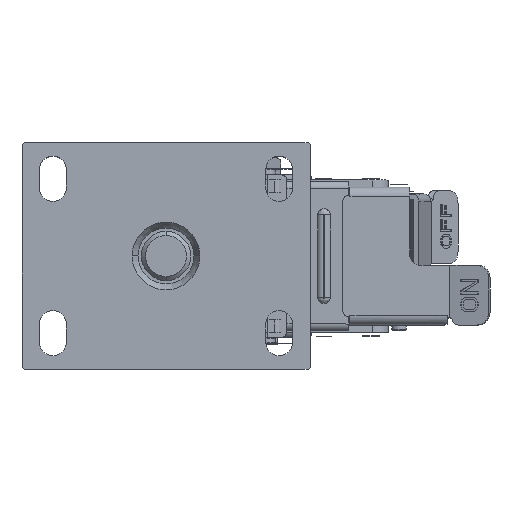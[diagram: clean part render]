
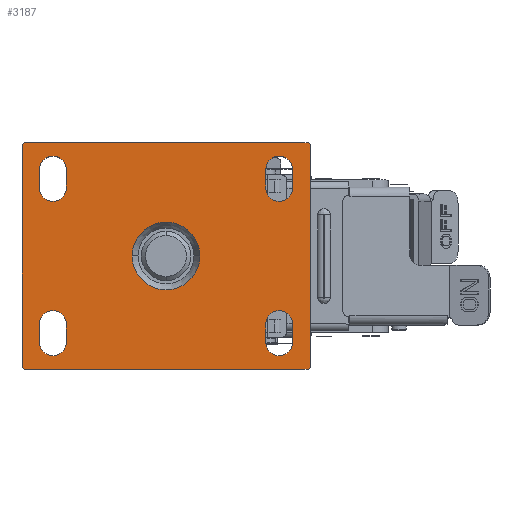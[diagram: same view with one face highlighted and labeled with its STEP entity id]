
A CAD part, top view. The second image highlights one B-rep face of the part: STEP entity #3187.
In plain terms, the highlighted planar face has unit normal (0, 0, 1).
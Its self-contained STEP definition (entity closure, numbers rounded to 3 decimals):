
#2607=DIRECTION('',(0.707,-0.707,0.));
#2608=VECTOR('',#2607,1.414);
#2609=CARTESIAN_POINT('',(-112.,-54.,122.));
#2610=LINE('',#2609,#2608);
#2611=DIRECTION('',(0.,-1.,0.));
#2612=VECTOR('',#2611,108.);
#2613=CARTESIAN_POINT('',(-112.,54.,122.));
#2614=LINE('',#2613,#2612);
#2615=DIRECTION('',(-0.707,-0.707,0.));
#2616=VECTOR('',#2615,1.414);
#2617=CARTESIAN_POINT('',(-111.,55.,122.));
#2618=LINE('',#2617,#2616);
#2619=DIRECTION('',(-1.,0.,0.));
#2620=VECTOR('',#2619,138.);
#2621=CARTESIAN_POINT('',(27.,55.,122.));
#2622=LINE('',#2621,#2620);
#2623=DIRECTION('',(0.707,-0.707,0.));
#2624=VECTOR('',#2623,1.414);
#2625=CARTESIAN_POINT('',(27.,55.,122.));
#2626=LINE('',#2625,#2624);
#2627=DIRECTION('',(0.,1.,0.));
#2628=VECTOR('',#2627,108.);
#2629=CARTESIAN_POINT('',(28.,-54.,122.));
#2630=LINE('',#2629,#2628);
#2631=DIRECTION('',(-0.707,-0.707,0.));
#2632=VECTOR('',#2631,1.414);
#2633=CARTESIAN_POINT('',(28.,-54.,122.));
#2634=LINE('',#2633,#2632);
#2635=DIRECTION('',(1.,0.,0.));
#2636=VECTOR('',#2635,138.);
#2637=CARTESIAN_POINT('',(-111.,-55.,122.));
#2638=LINE('',#2637,#2636);
#2639=CARTESIAN_POINT('',(-42.,0.,122.));
#2640=DIRECTION('',(0.,0.,-1.));
#2641=DIRECTION('',(-1.,0.,0.));
#2642=AXIS2_PLACEMENT_3D('',#2639,#2640,#2641);
#2644=CARTESIAN_POINT('',(-42.,0.,122.));
#2645=DIRECTION('',(0.,0.,-1.));
#2646=DIRECTION('',(1.,0.,0.));
#2647=AXIS2_PLACEMENT_3D('',#2644,#2645,#2646);
#2649=CARTESIAN_POINT('',(13.,33.,122.));
#2650=DIRECTION('',(0.,0.,1.));
#2651=DIRECTION('',(-1.,0.,0.));
#2652=AXIS2_PLACEMENT_3D('',#2649,#2650,#2651);
#2654=DIRECTION('',(0.,1.,0.));
#2655=VECTOR('',#2654,9.);
#2656=CARTESIAN_POINT('',(19.5,33.,122.));
#2657=LINE('',#2656,#2655);
#2658=CARTESIAN_POINT('',(13.,42.,122.));
#2659=DIRECTION('',(0.,0.,1.));
#2660=DIRECTION('',(1.,0.,0.));
#2661=AXIS2_PLACEMENT_3D('',#2658,#2659,#2660);
#2663=DIRECTION('',(0.,-1.,0.));
#2664=VECTOR('',#2663,9.);
#2665=CARTESIAN_POINT('',(6.5,42.,122.));
#2666=LINE('',#2665,#2664);
#2667=CARTESIAN_POINT('',(-97.,33.,122.));
#2668=DIRECTION('',(0.,0.,-1.));
#2669=DIRECTION('',(1.,0.,0.));
#2670=AXIS2_PLACEMENT_3D('',#2667,#2668,#2669);
#2672=DIRECTION('',(0.,-1.,0.));
#2673=VECTOR('',#2672,9.);
#2674=CARTESIAN_POINT('',(-90.5,42.,122.));
#2675=LINE('',#2674,#2673);
#2676=CARTESIAN_POINT('',(-97.,42.,122.));
#2677=DIRECTION('',(0.,0.,-1.));
#2678=DIRECTION('',(-1.,0.,0.));
#2679=AXIS2_PLACEMENT_3D('',#2676,#2677,#2678);
#2681=DIRECTION('',(0.,1.,0.));
#2682=VECTOR('',#2681,9.);
#2683=CARTESIAN_POINT('',(-103.5,33.,122.));
#2684=LINE('',#2683,#2682);
#2685=CARTESIAN_POINT('',(13.,-33.,122.));
#2686=DIRECTION('',(0.,0.,-1.));
#2687=DIRECTION('',(-1.,0.,0.));
#2688=AXIS2_PLACEMENT_3D('',#2685,#2686,#2687);
#2690=DIRECTION('',(0.,1.,0.));
#2691=VECTOR('',#2690,9.);
#2692=CARTESIAN_POINT('',(6.5,-42.,122.));
#2693=LINE('',#2692,#2691);
#2694=CARTESIAN_POINT('',(13.,-42.,122.));
#2695=DIRECTION('',(0.,0.,-1.));
#2696=DIRECTION('',(1.,0.,0.));
#2697=AXIS2_PLACEMENT_3D('',#2694,#2695,#2696);
#2699=DIRECTION('',(0.,-1.,0.));
#2700=VECTOR('',#2699,9.);
#2701=CARTESIAN_POINT('',(19.5,-33.,122.));
#2702=LINE('',#2701,#2700);
#2703=CARTESIAN_POINT('',(-97.,-33.,122.));
#2704=DIRECTION('',(0.,0.,1.));
#2705=DIRECTION('',(1.,0.,0.));
#2706=AXIS2_PLACEMENT_3D('',#2703,#2704,#2705);
#2708=DIRECTION('',(0.,-1.,0.));
#2709=VECTOR('',#2708,9.);
#2710=CARTESIAN_POINT('',(-103.5,-33.,122.));
#2711=LINE('',#2710,#2709);
#2712=CARTESIAN_POINT('',(-97.,-42.,122.));
#2713=DIRECTION('',(0.,0.,1.));
#2714=DIRECTION('',(-1.,0.,0.));
#2715=AXIS2_PLACEMENT_3D('',#2712,#2713,#2714);
#2717=DIRECTION('',(0.,1.,0.));
#2718=VECTOR('',#2717,9.);
#2719=CARTESIAN_POINT('',(-90.5,-42.,122.));
#2720=LINE('',#2719,#2718);
#2835=CARTESIAN_POINT('',(-112.,-54.,122.));
#2836=VERTEX_POINT('',#2835);
#2837=CARTESIAN_POINT('',(-111.,-55.,122.));
#2838=VERTEX_POINT('',#2837);
#2843=CARTESIAN_POINT('',(-111.,55.,122.));
#2844=VERTEX_POINT('',#2843);
#2845=CARTESIAN_POINT('',(-112.,54.,122.));
#2846=VERTEX_POINT('',#2845);
#2851=CARTESIAN_POINT('',(27.,-55.,122.));
#2852=VERTEX_POINT('',#2851);
#2853=CARTESIAN_POINT('',(28.,-54.,122.));
#2854=VERTEX_POINT('',#2853);
#2859=CARTESIAN_POINT('',(28.,54.,122.));
#2860=VERTEX_POINT('',#2859);
#2861=CARTESIAN_POINT('',(27.,55.,122.));
#2862=VERTEX_POINT('',#2861);
#2863=CARTESIAN_POINT('',(-58.5,0.,122.));
#2864=CARTESIAN_POINT('',(-25.5,0.,122.));
#2865=VERTEX_POINT('',#2863);
#2866=VERTEX_POINT('',#2864);
#2879=CARTESIAN_POINT('',(6.5,33.,122.));
#2880=CARTESIAN_POINT('',(19.5,33.,122.));
#2881=VERTEX_POINT('',#2879);
#2882=VERTEX_POINT('',#2880);
#2883=CARTESIAN_POINT('',(19.5,42.,122.));
#2884=VERTEX_POINT('',#2883);
#2885=CARTESIAN_POINT('',(6.5,42.,122.));
#2886=VERTEX_POINT('',#2885);
#2888=CARTESIAN_POINT('',(-90.5,33.,122.));
#2890=VERTEX_POINT('',#2888);
#2892=CARTESIAN_POINT('',(-103.5,33.,122.));
#2894=VERTEX_POINT('',#2892);
#2896=CARTESIAN_POINT('',(-103.5,42.,122.));
#2898=VERTEX_POINT('',#2896);
#2900=CARTESIAN_POINT('',(-90.5,42.,122.));
#2902=VERTEX_POINT('',#2900);
#2904=CARTESIAN_POINT('',(6.5,-33.,122.));
#2906=VERTEX_POINT('',#2904);
#2908=CARTESIAN_POINT('',(19.5,-33.,122.));
#2910=VERTEX_POINT('',#2908);
#2912=CARTESIAN_POINT('',(19.5,-42.,122.));
#2914=VERTEX_POINT('',#2912);
#2916=CARTESIAN_POINT('',(6.5,-42.,122.));
#2918=VERTEX_POINT('',#2916);
#2920=CARTESIAN_POINT('',(-90.5,-33.,122.));
#2922=VERTEX_POINT('',#2920);
#2924=CARTESIAN_POINT('',(-103.5,-33.,122.));
#2926=VERTEX_POINT('',#2924);
#2928=CARTESIAN_POINT('',(-103.5,-42.,122.));
#2930=VERTEX_POINT('',#2928);
#2932=CARTESIAN_POINT('',(-90.5,-42.,122.));
#2934=VERTEX_POINT('',#2932);
#3122=CARTESIAN_POINT('',(-42.,0.,122.));
#3123=DIRECTION('',(0.,0.,1.));
#3124=DIRECTION('',(-1.,0.,0.));
#3125=AXIS2_PLACEMENT_3D('',#3122,#3123,#3124);
#3126=PLANE('',#3125);
#3127=ORIENTED_EDGE('',*,*,#3045,.F.);
#3128=ORIENTED_EDGE('',*,*,#3068,.F.);
#3129=ORIENTED_EDGE('',*,*,#3088,.F.);
#3130=ORIENTED_EDGE('',*,*,#3110,.F.);
#3132=ORIENTED_EDGE('',*,*,#3131,.T.);
#3134=ORIENTED_EDGE('',*,*,#3133,.F.);
#3136=ORIENTED_EDGE('',*,*,#3135,.T.);
#3138=ORIENTED_EDGE('',*,*,#3137,.F.);
#3139=EDGE_LOOP('',(#3127,#3128,#3129,#3130,#3132,#3134,#3136,#3138));
#3140=FACE_OUTER_BOUND('',#3139,.F.);
#3142=ORIENTED_EDGE('',*,*,#3141,.F.);
#3144=ORIENTED_EDGE('',*,*,#3143,.F.);
#3145=EDGE_LOOP('',(#3142,#3144));
#3146=FACE_BOUND('',#3145,.F.);
#3148=ORIENTED_EDGE('',*,*,#3147,.T.);
#3150=ORIENTED_EDGE('',*,*,#3149,.T.);
#3152=ORIENTED_EDGE('',*,*,#3151,.T.);
#3154=ORIENTED_EDGE('',*,*,#3153,.T.);
#3155=EDGE_LOOP('',(#3148,#3150,#3152,#3154));
#3156=FACE_BOUND('',#3155,.F.);
#3158=ORIENTED_EDGE('',*,*,#3157,.F.);
#3160=ORIENTED_EDGE('',*,*,#3159,.F.);
#3162=ORIENTED_EDGE('',*,*,#3161,.F.);
#3164=ORIENTED_EDGE('',*,*,#3163,.F.);
#3165=EDGE_LOOP('',(#3158,#3160,#3162,#3164));
#3166=FACE_BOUND('',#3165,.F.);
#3168=ORIENTED_EDGE('',*,*,#3167,.F.);
#3170=ORIENTED_EDGE('',*,*,#3169,.F.);
#3172=ORIENTED_EDGE('',*,*,#3171,.F.);
#3174=ORIENTED_EDGE('',*,*,#3173,.F.);
#3175=EDGE_LOOP('',(#3168,#3170,#3172,#3174));
#3176=FACE_BOUND('',#3175,.F.);
#3178=ORIENTED_EDGE('',*,*,#3177,.T.);
#3180=ORIENTED_EDGE('',*,*,#3179,.T.);
#3182=ORIENTED_EDGE('',*,*,#3181,.T.);
#3184=ORIENTED_EDGE('',*,*,#3183,.T.);
#3185=EDGE_LOOP('',(#3178,#3180,#3182,#3184));
#3186=FACE_BOUND('',#3185,.F.);
#3187=ADVANCED_FACE('',(#3140,#3146,#3156,#3166,#3176,#3186),#3126,.T.);
#2643=CIRCLE('',#2642,16.5);
#2648=CIRCLE('',#2647,16.5);
#2653=CIRCLE('',#2652,6.5);
#2662=CIRCLE('',#2661,6.5);
#2671=CIRCLE('',#2670,6.5);
#2680=CIRCLE('',#2679,6.5);
#2689=CIRCLE('',#2688,6.5);
#2698=CIRCLE('',#2697,6.5);
#2707=CIRCLE('',#2706,6.5);
#2716=CIRCLE('',#2715,6.5);
#3045=EDGE_CURVE('',#2836,#2838,#2610,.T.);
#3068=EDGE_CURVE('',#2846,#2836,#2614,.T.);
#3088=EDGE_CURVE('',#2844,#2846,#2618,.T.);
#3110=EDGE_CURVE('',#2862,#2844,#2622,.T.);
#3131=EDGE_CURVE('',#2862,#2860,#2626,.T.);
#3133=EDGE_CURVE('',#2854,#2860,#2630,.T.);
#3135=EDGE_CURVE('',#2854,#2852,#2634,.T.);
#3137=EDGE_CURVE('',#2838,#2852,#2638,.T.);
#3141=EDGE_CURVE('',#2865,#2866,#2643,.T.);
#3143=EDGE_CURVE('',#2866,#2865,#2648,.T.);
#3147=EDGE_CURVE('',#2881,#2882,#2653,.T.);
#3149=EDGE_CURVE('',#2882,#2884,#2657,.T.);
#3151=EDGE_CURVE('',#2884,#2886,#2662,.T.);
#3153=EDGE_CURVE('',#2886,#2881,#2666,.T.);
#3157=EDGE_CURVE('',#2890,#2894,#2671,.T.);
#3159=EDGE_CURVE('',#2902,#2890,#2675,.T.);
#3161=EDGE_CURVE('',#2898,#2902,#2680,.T.);
#3163=EDGE_CURVE('',#2894,#2898,#2684,.T.);
#3167=EDGE_CURVE('',#2906,#2910,#2689,.T.);
#3169=EDGE_CURVE('',#2918,#2906,#2693,.T.);
#3171=EDGE_CURVE('',#2914,#2918,#2698,.T.);
#3173=EDGE_CURVE('',#2910,#2914,#2702,.T.);
#3177=EDGE_CURVE('',#2922,#2926,#2707,.T.);
#3179=EDGE_CURVE('',#2926,#2930,#2711,.T.);
#3181=EDGE_CURVE('',#2930,#2934,#2716,.T.);
#3183=EDGE_CURVE('',#2934,#2922,#2720,.T.);
